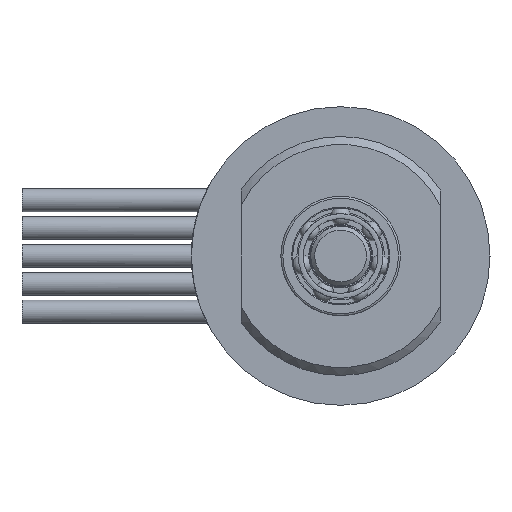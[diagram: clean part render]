
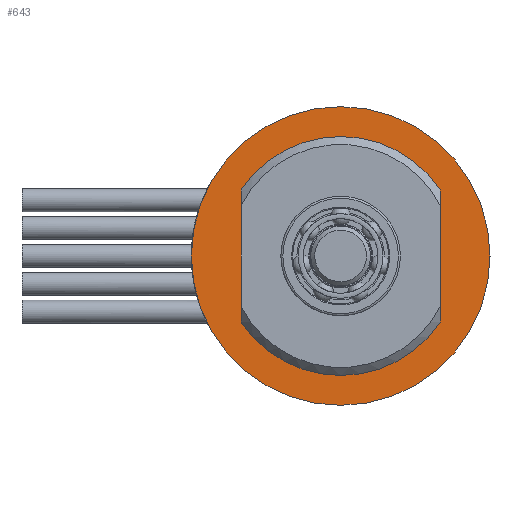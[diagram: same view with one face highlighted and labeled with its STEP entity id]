
A CAD part, left-side view. The second image highlights one B-rep face of the part: STEP entity #643.
In plain terms, the highlighted planar face has unit normal (-1, 0, 0).
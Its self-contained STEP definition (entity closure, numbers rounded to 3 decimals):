
#643=ADVANCED_FACE('',(#982,#983),#984,.F.);
#982=FACE_BOUND('',#1283,.T.);
#983=FACE_OUTER_BOUND('',#1284,.T.);
#984=PLANE('',#1285);
#1283=EDGE_LOOP('',(#1671,#1672,#1673,#1674));
#1284=EDGE_LOOP('',(#1675));
#1285=AXIS2_PLACEMENT_3D('',#1676,#1677,#1678);
#1671=ORIENTED_EDGE('',*,*,#1947,.F.);
#1672=ORIENTED_EDGE('',*,*,#1906,.T.);
#1673=ORIENTED_EDGE('',*,*,#1948,.F.);
#1674=ORIENTED_EDGE('',*,*,#1949,.T.);
#1675=ORIENTED_EDGE('',*,*,#1901,.T.);
#1676=CARTESIAN_POINT('',(0.,3.325,0.0));
#1677=DIRECTION('',(1.0,0.0,0.0));
#1678=DIRECTION('',(0.0,1.0,0.0));
#1901=EDGE_CURVE('',#2108,#2108,#2109,.T.);
#1906=EDGE_CURVE('',#2117,#2115,#2118,.T.);
#1947=EDGE_CURVE('',#2117,#2183,#2184,.T.);
#1948=EDGE_CURVE('',#2185,#2115,#2186,.T.);
#1949=EDGE_CURVE('',#2185,#2183,#2187,.T.);
#2108=VERTEX_POINT('',#2725);
#2109=CIRCLE('',#2726,3.75);
#2115=VERTEX_POINT('',#2732);
#2117=VERTEX_POINT('',#2735);
#2118=LINE('',#2736,#2737);
#2183=VERTEX_POINT('',#2820);
#2184=CIRCLE('',#2821,2.9);
#2185=VERTEX_POINT('',#2822);
#2186=CIRCLE('',#2823,2.9);
#2187=LINE('',#2824,#2825);
#2725=CARTESIAN_POINT('',(0.,0.0,3.75));
#2726=AXIS2_PLACEMENT_3D('',#2947,#2948,#2949);
#2732=CARTESIAN_POINT('',(0.0,2.5,1.47));
#2735=CARTESIAN_POINT('',(0.0,2.5,-1.47));
#2736=CARTESIAN_POINT('',(0.0,2.5,0.));
#2737=VECTOR('',#2954,1.0);
#2820=CARTESIAN_POINT('',(0.0,-2.5,-1.47));
#2821=AXIS2_PLACEMENT_3D('',#3015,#3016,#3017);
#2822=CARTESIAN_POINT('',(0.0,-2.5,1.47));
#2823=AXIS2_PLACEMENT_3D('',#3018,#3019,#3020);
#2824=CARTESIAN_POINT('',(0.0,-2.5,0.));
#2825=VECTOR('',#3021,1.0);
#2947=CARTESIAN_POINT('',(0.,0.0,0.0));
#2948=DIRECTION('',(-1.0,0.0,0.0));
#2949=DIRECTION('',(0.0,0.0,1.0));
#2954=DIRECTION('',(0.0,0.,1.0));
#3015=CARTESIAN_POINT('',(0.,0.0,0.0));
#3016=DIRECTION('',(-1.0,0.0,0.0));
#3017=DIRECTION('',(0.0,0.0,1.0));
#3018=CARTESIAN_POINT('',(0.,0.0,0.0));
#3019=DIRECTION('',(-1.0,0.0,0.0));
#3020=DIRECTION('',(0.0,0.0,1.0));
#3021=DIRECTION('',(0.0,0.,-1.0));
